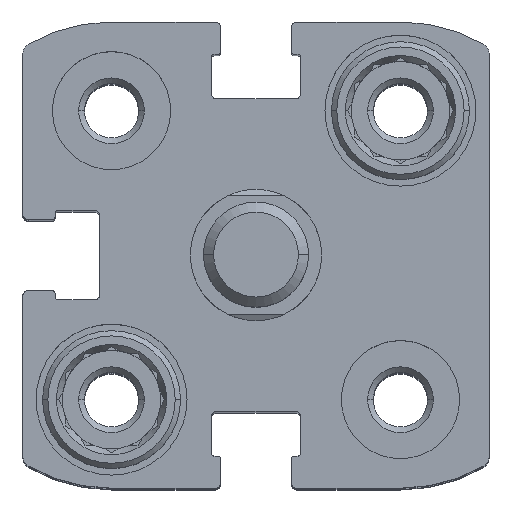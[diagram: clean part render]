
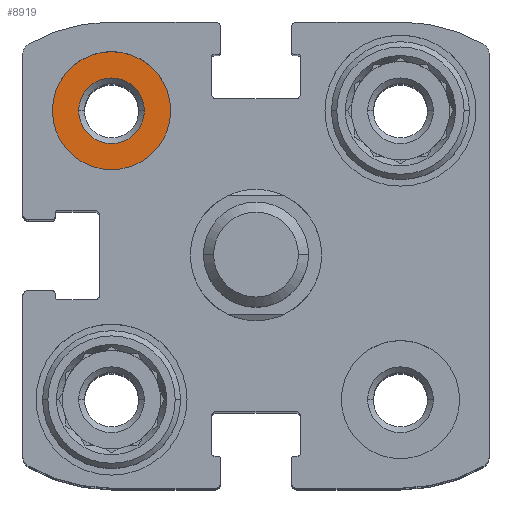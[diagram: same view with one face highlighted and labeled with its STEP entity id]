
A CAD part, top view. The second image highlights one B-rep face of the part: STEP entity #8919.
In plain terms, the highlighted planar face has unit normal (0, 0, 1).
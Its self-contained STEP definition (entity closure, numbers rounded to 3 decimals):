
#52 = EDGE_CURVE ( 'NONE', #13015, #6895, #348, .T. ) ;
#97 = CARTESIAN_POINT ( 'NONE',  ( -11., 11., -4.8 ) ) ;
#217 = EDGE_CURVE ( 'NONE', #12179, #1870, #6936, .T. ) ;
#254 = CARTESIAN_POINT ( 'NONE',  ( -15.5, 11., -4.8 ) ) ;
#348 = CIRCLE ( 'NONE', #9649, 4.5 ) ;
#436 = ORIENTED_EDGE ( 'NONE', *, *, #3567, .T. ) ;
#662 = CIRCLE ( 'NONE', #3266, 4.5 ) ;
#1106 = DIRECTION ( 'NONE',  ( -1., 0., 0. ) ) ;
#1870 = VERTEX_POINT ( 'NONE', #3134 ) ;
#2186 = DIRECTION ( 'NONE',  ( 0., 0., -1. ) ) ;
#2294 = DIRECTION ( 'NONE',  ( 1., 0., 0. ) ) ;
#3134 = CARTESIAN_POINT ( 'NONE',  ( -13.5, 11., -4.8 ) ) ;
#3261 = FACE_OUTER_BOUND ( 'NONE', #10613, .T. ) ;
#3266 = AXIS2_PLACEMENT_3D ( 'NONE', #97, #8376, #5146 ) ;
#3384 = PLANE ( 'NONE',  #8572 ) ;
#3567 = EDGE_CURVE ( 'NONE', #1870, #12179, #8333, .T. ) ;
#4117 = CARTESIAN_POINT ( 'NONE',  ( -8.5, 11., -4.8 ) ) ;
#4538 = EDGE_CURVE ( 'NONE', #6895, #13015, #662, .T. ) ;
#4671 = AXIS2_PLACEMENT_3D ( 'NONE', #11196, #6870, #7139 ) ;
#5146 = DIRECTION ( 'NONE',  ( -1., 0., 0. ) ) ;
#5369 = EDGE_LOOP ( 'NONE', ( #12995, #436 ) ) ;
#5718 = DIRECTION ( 'NONE',  ( 0., 0., -1. ) ) ;
#6870 = DIRECTION ( 'NONE',  ( 0., 0., -1. ) ) ;
#6895 = VERTEX_POINT ( 'NONE', #8708 ) ;
#6936 = CIRCLE ( 'NONE', #12779, 2.5 ) ;
#7139 = DIRECTION ( 'NONE',  ( -1., 0., 0. ) ) ;
#7814 = DIRECTION ( 'NONE',  ( -1., 0., 0. ) ) ;
#8333 = CIRCLE ( 'NONE', #4671, 2.5 ) ;
#8346 = CARTESIAN_POINT ( 'NONE',  ( -11., 11., -4.8 ) ) ;
#8376 = DIRECTION ( 'NONE',  ( 0., 0., -1. ) ) ;
#8572 = AXIS2_PLACEMENT_3D ( 'NONE', #10633, #9614, #2294 ) ;
#8677 = FACE_BOUND ( 'NONE', #5369, .T. ) ;
#8698 = CARTESIAN_POINT ( 'NONE',  ( -11., 11., -4.8 ) ) ;
#8708 = CARTESIAN_POINT ( 'NONE',  ( -6.5, 11., -4.8 ) ) ;
#8919 = ADVANCED_FACE ( 'NONE', ( #3261, #8677 ), #3384, .T. ) ;
#9614 = DIRECTION ( 'NONE',  ( 0., 0., 1. ) ) ;
#9649 = AXIS2_PLACEMENT_3D ( 'NONE', #8346, #2186, #1106 ) ;
#10613 = EDGE_LOOP ( 'NONE', ( #10715, #10969 ) ) ;
#10633 = CARTESIAN_POINT ( 'NONE',  ( -11., 15.5, -4.8 ) ) ;
#10715 = ORIENTED_EDGE ( 'NONE', *, *, #52, .F. ) ;
#10969 = ORIENTED_EDGE ( 'NONE', *, *, #4538, .F. ) ;
#11196 = CARTESIAN_POINT ( 'NONE',  ( -11., 11., -4.8 ) ) ;
#12179 = VERTEX_POINT ( 'NONE', #4117 ) ;
#12779 = AXIS2_PLACEMENT_3D ( 'NONE', #8698, #5718, #7814 ) ;
#12995 = ORIENTED_EDGE ( 'NONE', *, *, #217, .T. ) ;
#13015 = VERTEX_POINT ( 'NONE', #254 ) ;
